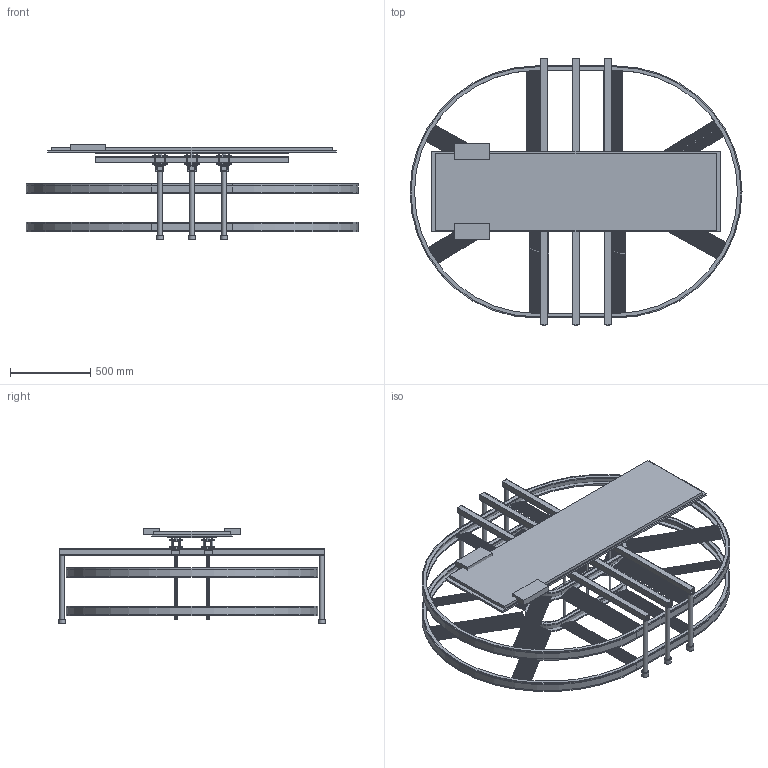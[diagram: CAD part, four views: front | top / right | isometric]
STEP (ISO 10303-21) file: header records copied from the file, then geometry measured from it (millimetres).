
FILE_DESCRIPTION(('FreeCAD Model'),'2;1');
FILE_NAME('Open CASCADE Shape Model','2026-10-29T11:58:05',('FreeCAD'),( 'FreeCAD'),'Open CASCADE STEP processor 7.8','FreeCAD','Unknown');
FILE_SCHEMA(('AUTOMOTIVE_DESIGN { 1 0 10303 214 1 1 1 1 }'));
Products named in the file (1): Open CASCADE STEP translator 7.8 6
Bounding box: 2072 x 1664 x 598 mm (x, y, z)
Volume: 54488087.6 mm3; surface area: 16671411 mm2
Topology: 146 solids, 146 shells, 3996 faces, 11112 edges, 7408 vertices
Faces by surface type: plane 3744, cylinder 252
Full cylindrical faces by diameter (mm): 6 x24, 6.6 x120, 10 x30, 16 x6, 24 x12, 30 x6, 44 x6
Entity records: 126040 total; most frequent: CARTESIAN_POINT 22517, ORIENTED_EDGE 22224, DIRECTION 19610, EDGE_CURVE 11112, LINE 10608, VECTOR 10608, VERTEX_POINT 7408, AXIS2_PLACEMENT_3D 4501
